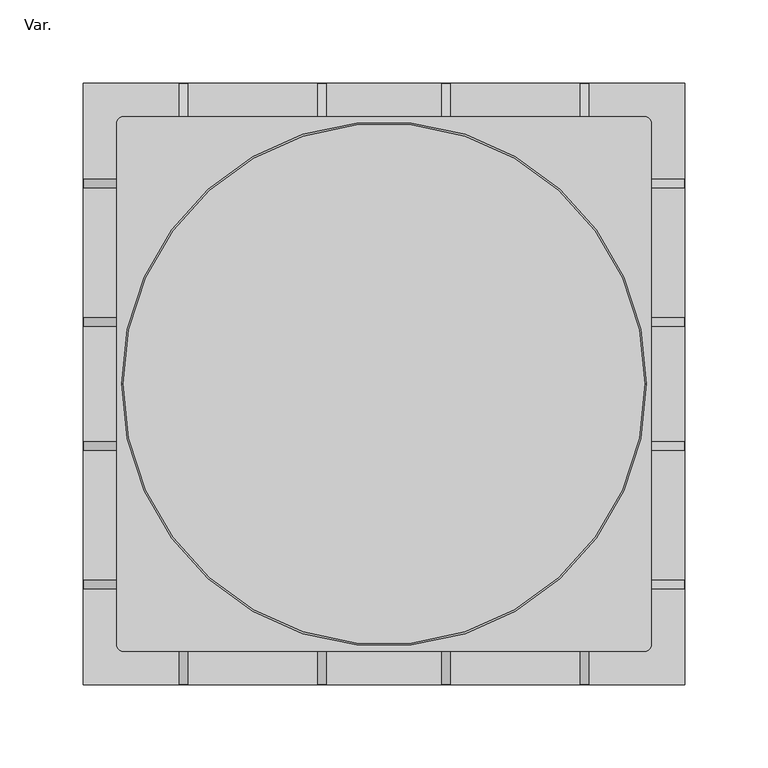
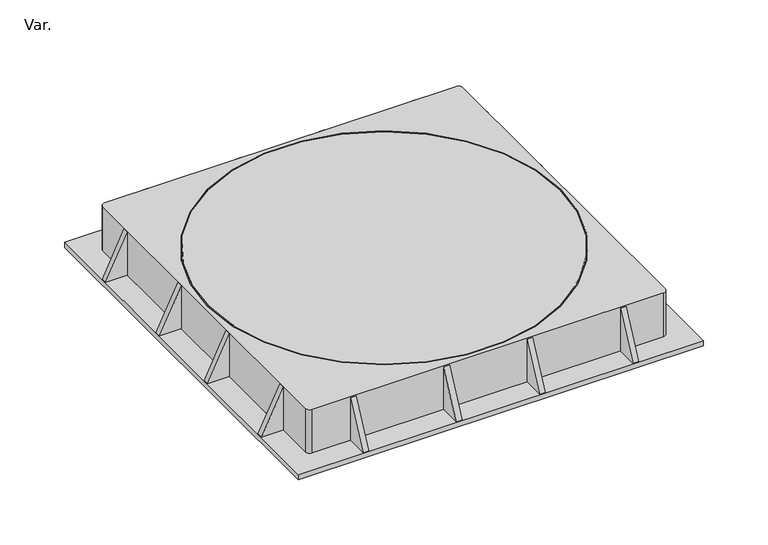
"""IFC4 building model written with IfcOpenShell, lengths in millimetres: pipe fitting geometry, AmancoWavin_ConexõesdeTubos_EsgotoZNãoUsarTampaCaixaGord-Insp : Var.."""

from ifc_helpers import new_model, si_unit, frame, origin, place, context, project, spatial, polyline, circle_curve, outline, extrude, source, transform, mapped, element, save
from ifc_brep_helpers import plane_surface, cylinder_surface, revolved_surface, advanced_brep


def var_2c33ede7(model_context):
    return source(origin(), model_context, "Body", "SolidModel", [
        advanced_brep(
        [(180.5, 180.5, 5.0), (-180.5, 180.5, 5.0), (-180.5, -180.5, 5.0), (180.5, -180.5, 5.0), (-156.5, 160.5, 5.0), (156.5, 160.5, 5.0), (160.5, 156.5, 5.0), (160.5, -156.5, 5.0), (156.5, -160.5, 5.0), (-156.5, -160.5, 5.0), (-160.5, -156.5, 5.0), (-160.5, 156.5, 5.0), (180.5, 180.5, 0.0), (180.5, -180.5, 0.0), (-180.5, -180.5, 0.0), (-180.5, 180.5, 0.0), (157.5, 0.0, 0.0), (-157.5, 0.0, 0.0), (156.5, 160.5, 46.2), (-156.5, 160.5, 46.2), (-160.5, 156.5, 46.2), (-160.5, -156.5, 46.2), (-156.5, -160.5, 46.2), (156.5, -160.5, 46.2), (160.5, -156.5, 46.2), (160.5, 156.5, 46.2), (-157.5, 0.0, 46.2), (157.5, 0.0, 46.2), (156.5, 0.0, 46.2), (-156.5, 0.0, 46.2), (157.5, 0.0, 30.2), (0.0, 0.0, 30.2), (-157.5, 0.0, 30.2), (156.5, 0.0, 45.2), (157.5, 0.0, 45.2), (-157.5, 0.0, 45.2), (-156.5, 0.0, 45.2)],
        [
            (0, 1),
            (1, 2),
            (2, 3),
            (3, 0),
            (4, 5),
            (5, 6, circle_curve(frame((156.5, 156.5, 5.0), z_axis=(0.0, 0.0, -1.0), x_axis=(1.0, 0.0, 0.0)), 4.0)),
            (6, 7),
            (7, 8, circle_curve(frame((156.5, -156.5, 5.0), z_axis=(0.0, 0.0, -1.0), x_axis=(1.0, 0.0, 0.0)), 4.0)),
            (8, 9),
            (9, 10, circle_curve(frame((-156.5, -156.5, 5.0), z_axis=(0.0, 0.0, -1.0), x_axis=(1.0, 0.0, 0.0)), 4.0)),
            (10, 11),
            (11, 4, circle_curve(frame((-156.5, 156.5, 5.0), z_axis=(0.0, 0.0, -1.0), x_axis=(1.0, 0.0, 0.0)), 4.0)),
            (12, 13),
            (13, 14),
            (14, 15),
            (15, 12),
            (16, 17, circle_curve(frame((0.0, 0.0, 0.0), z_axis=(0.0, 0.0, 1.0), x_axis=(-1.0, 0.0, 0.0)), 157.5)),
            (17, 16, circle_curve(frame((0.0, 0.0, 0.0), z_axis=(0.0, 0.0, 1.0), x_axis=(-1.0, 0.0, 0.0)), 157.5)),
            (0, 12),
            (15, 1),
            (14, 2),
            (13, 3),
            (18, 19),
            (19, 20, circle_curve(frame((-156.5, 156.5, 46.2), z_axis=(0.0, 0.0, 1.0), x_axis=(1.0, 0.0, 0.0)), 4.0)),
            (20, 21),
            (21, 22, circle_curve(frame((-156.5, -156.5, 46.2), z_axis=(0.0, 0.0, 1.0), x_axis=(1.0, 0.0, 0.0)), 4.0)),
            (22, 23),
            (23, 24, circle_curve(frame((156.5, -156.5, 46.2), z_axis=(0.0, 0.0, 1.0), x_axis=(1.0, 0.0, 0.0)), 4.0)),
            (24, 25),
            (25, 18, circle_curve(frame((156.5, 156.5, 46.2), z_axis=(0.0, 0.0, 1.0), x_axis=(1.0, 0.0, 0.0)), 4.0)),
            (26, 27, circle_curve(frame((0.0, 0.0, 46.2), z_axis=(0.0, 0.0, -1.0), x_axis=(-1.0, 0.0, 0.0)), 157.5)),
            (27, 26, circle_curve(frame((0.0, 0.0, 46.2), z_axis=(0.0, 0.0, -1.0), x_axis=(-1.0, 0.0, 0.0)), 157.5)),
            (28, 29, circle_curve(frame((0.0, 0.0, 46.2), z_axis=(0.0, 0.0, 1.0), x_axis=(-1.0, 0.0, 0.0)), 156.5)),
            (29, 28, circle_curve(frame((0.0, 0.0, 46.2), z_axis=(0.0, 0.0, 1.0), x_axis=(-1.0, 0.0, 0.0)), 156.5)),
            (18, 5),
            (4, 19),
            (20, 11),
            (10, 21),
            (22, 9),
            (8, 23),
            (24, 7),
            (6, 25),
            (30, 31),
            (31, 32),
            (32, 30, circle_curve(frame((0.0, 0.0, 30.2), z_axis=(0.0, 0.0, -1.0), x_axis=(-1.0, 0.0, 0.0)), 157.5)),
            (30, 32, circle_curve(frame((0.0, 0.0, 30.2), z_axis=(0.0, 0.0, -1.0), x_axis=(-1.0, 0.0, 0.0)), 157.5)),
            (32, 17),
            (16, 30),
            (33, 34),
            (34, 35, circle_curve(frame((0.0, 0.0, 45.2), z_axis=(0.0, 0.0, 1.0), x_axis=(-1.0, 0.0, 0.0)), 157.5)),
            (35, 36),
            (36, 33, circle_curve(frame((0.0, 0.0, 45.2), z_axis=(0.0, 0.0, -1.0), x_axis=(-1.0, 0.0, 0.0)), 156.5)),
            (33, 36, circle_curve(frame((0.0, 0.0, 45.2), z_axis=(0.0, 0.0, -1.0), x_axis=(-1.0, 0.0, 0.0)), 156.5)),
            (35, 34, circle_curve(frame((0.0, 0.0, 45.2), z_axis=(0.0, 0.0, 1.0), x_axis=(-1.0, 0.0, 0.0)), 157.5)),
            (36, 29),
            (28, 33),
            (34, 27),
            (26, 35),
        ],
        [
            plane_surface(frame((-180.5, 180.5, 5.0), z_axis=(0.0, 0.0, 1.0), x_axis=(-1.0, 0.0, 0.0))),
            plane_surface(frame((-180.5, 180.5, 0.0), z_axis=(0.0, 0.0, -1.0), x_axis=(1.0, 0.0, 0.0))),
            plane_surface(frame((180.5, 180.5, 5.0), z_axis=(0.0, 1.0, 0.0), x_axis=(0.0, 0.0, -1.0))),
            plane_surface(frame((-180.5, 180.5, 5.0), z_axis=(-1.0, 0.0, 0.0), x_axis=(0.0, 0.0, -1.0))),
            plane_surface(frame((-180.5, -180.5, 5.0), z_axis=(0.0, -1.0, 0.0), x_axis=(0.0, 0.0, -1.0))),
            plane_surface(frame((180.5, -180.5, 5.0), z_axis=(1.0, 0.0, 0.0), x_axis=(0.0, 0.0, -1.0))),
            plane_surface(frame((-156.5, 160.5, 46.2), z_axis=(0.0, 0.0, 1.0), x_axis=(-1.0, 0.0, 0.0))),
            plane_surface(frame((156.5, 160.5, 46.2), z_axis=(0.0, 1.0, 0.0), x_axis=(0.0, 0.0, -1.0))),
            plane_surface(frame((-160.5, 156.5, 46.2), z_axis=(-1.0, 0.0, 0.0), x_axis=(0.0, 0.0, -1.0))),
            plane_surface(frame((-156.5, -160.5, 46.2), z_axis=(0.0, -1.0, 0.0), x_axis=(0.0, 0.0, -1.0))),
            plane_surface(frame((160.5, -156.5, 46.2), z_axis=(1.0, 0.0, 0.0), x_axis=(0.0, 0.0, -1.0))),
            cylinder_surface(frame((-156.5, 156.5, 5.0), z_axis=(0.0, 0.0, 1.0), x_axis=(1.0, 0.0, 0.0)), 4.0),
            cylinder_surface(frame((-156.5, -156.5, 5.0), z_axis=(0.0, 0.0, 1.0), x_axis=(1.0, 0.0, 0.0)), 4.0),
            cylinder_surface(frame((156.5, -156.5, 5.0), z_axis=(0.0, 0.0, 1.0), x_axis=(1.0, 0.0, 0.0)), 4.0),
            cylinder_surface(frame((156.5, 156.5, 5.0), z_axis=(0.0, 0.0, 1.0), x_axis=(1.0, 0.0, 0.0)), 4.0),
            plane_surface(frame((0.0, 0.0, 30.2), z_axis=(0.0, 0.0, -1.0), x_axis=(-1.0, 0.0, 0.0))),
            revolved_surface(polyline([(-157.5, 0.0, 0.0), (-157.5, 0.0, 30.199999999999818)]), (0.0, 0.0, 2214.3150031), (0.0, 0.0, -1.0)),
            plane_surface(frame((0.0, 0.0, 45.2), z_axis=(0.0, 0.0, 1.0), x_axis=(-1.0, 0.0, 0.0))),
            cylinder_surface(frame((0.0, 0.0, 2214.3150031), z_axis=(0.0, 0.0, -1.0), x_axis=(-1.0, 0.0, 0.0)), 156.5),
            revolved_surface(polyline([(-157.5, 0.0, 45.19999999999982), (-157.5, 0.0, 46.19999999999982)]), (0.0, 0.0, 2214.3150031), (0.0, 0.0, -1.0)),
        ],
        [
            (0, [[1, 2, 3, 4], [5, 6, 7, 8, 9, 10, 11, 12]]),
            (1, [[13, 14, 15, 16], [17, 18]]),
            (2, [[-1, 19, -16, 20]]),
            (3, [[-2, -20, -15, 21]]),
            (4, [[-3, -21, -14, 22]]),
            (5, [[-4, -22, -13, -19]]),
            (6, [[23, 24, 25, 26, 27, 28, 29, 30], [31, 32]]),
            (6, [[33, 34]]),
            (7, [[-23, 35, -5, 36]]),
            (8, [[-25, 37, -11, 38]]),
            (9, [[-27, 39, -9, 40]]),
            (10, [[-29, 41, -7, 42]]),
            (11, [[-24, -36, -12, -37]]),
            (12, [[-26, -38, -10, -39]]),
            (13, [[-28, -40, -8, -41]]),
            (14, [[-30, -42, -6, -35]]),
            (15, [[43, 44, 45]]),
            (15, [[-43, 46, -44]]),
            (16, [[-45, 47, -17, 48]]),
            (16, [[-46, -48, -18, -47]]),
            (17, [[49, 50, 51, 52]]),
            (17, [[-49, 53, -51, 54]]),
            (18, [[-52, 55, -33, 56]]),
            (18, [[-53, -56, -34, -55]]),
            (19, [[-50, 57, -31, 58]]),
            (19, [[-54, -58, -32, -57]]),
        ],
    ),
        extrude(outline(polyline([(5.0, -180.5), (5.0, -160.5), (46.2, -160.5), (5.0, -180.5)])), frame((0.0, 34.625, 0.0), z_axis=(0.0, 1.0, 0.0), x_axis=(0.0, 0.0, 1.0)), (0.0, 0.0, 1.0), 5.0),
        extrude(outline(polyline([(5.0, -180.5), (5.0, -160.5), (46.2, -160.5), (5.0, -180.5)])), frame((0.0, 117.87, 0.0), z_axis=(0.0, 1.0, 0.0), x_axis=(0.0, 0.0, 1.0)), (0.0, 0.0, 1.0), 5.0),
        extrude(outline(polyline([(5.0, -180.5), (5.0, -160.5), (46.2, -160.5), (5.0, -180.5)])), frame((0.0, -39.625, 0.0), z_axis=(0.0, 1.0, 0.0), x_axis=(0.0, 0.0, 1.0)), (0.0, 0.0, 1.0), 5.0),
        extrude(outline(polyline([(5.0, -180.5), (5.0, -160.5), (46.2, -160.5), (5.0, -180.5)])), frame((0.0, -122.87, 0.0), z_axis=(0.0, 1.0, 0.0), x_axis=(0.0, 0.0, 1.0)), (0.0, 0.0, 1.0), 5.0),
        extrude(outline(polyline([(5.0, 180.5), (46.2, 160.5), (5.0, 160.5), (5.0, 180.5)])), frame((0.0, 34.625, 0.0), z_axis=(0.0, 1.0, 0.0), x_axis=(0.0, 0.0, 1.0)), (0.0, 0.0, 1.0), 5.0),
        extrude(outline(polyline([(5.0, 180.5), (46.2, 160.5), (5.0, 160.5), (5.0, 180.5)])), frame((0.0, 117.87, 0.0), z_axis=(0.0, 1.0, 0.0), x_axis=(0.0, 0.0, 1.0)), (0.0, 0.0, 1.0), 5.0),
        extrude(outline(polyline([(5.0, 180.5), (46.2, 160.5), (5.0, 160.5), (5.0, 180.5)])), frame((0.0, -39.625, 0.0), z_axis=(0.0, 1.0, 0.0), x_axis=(0.0, 0.0, 1.0)), (0.0, 0.0, 1.0), 5.0),
        extrude(outline(polyline([(5.0, 180.5), (46.2, 160.5), (5.0, 160.5), (5.0, 180.5)])), frame((0.0, -122.87, 0.0), z_axis=(0.0, 1.0, 0.0), x_axis=(0.0, 0.0, 1.0)), (0.0, 0.0, 1.0), 5.0),
        extrude(outline(polyline([(-180.5, 5.0), (-160.5, 46.2), (-160.5, 5.0), (-180.5, 5.0)])), frame((-39.625, 0.0, 0.0), z_axis=(1.0, 0.0, 0.0), x_axis=(0.0, 1.0, 0.0)), (0.0, 0.0, 1.0), 5.0),
        extrude(outline(polyline([(-180.5, 5.0), (-160.5, 46.2), (-160.5, 5.0), (-180.5, 5.0)])), frame((-122.87, 0.0, 0.0), z_axis=(1.0, 0.0, 0.0), x_axis=(0.0, 1.0, 0.0)), (0.0, 0.0, 1.0), 5.0),
        extrude(outline(polyline([(-180.5, 5.0), (-160.5, 46.2), (-160.5, 5.0), (-180.5, 5.0)])), frame((34.625, 0.0, 0.0), z_axis=(1.0, 0.0, 0.0), x_axis=(0.0, 1.0, 0.0)), (0.0, 0.0, 1.0), 5.0),
        extrude(outline(polyline([(-180.5, 5.0), (-160.5, 46.2), (-160.5, 5.0), (-180.5, 5.0)])), frame((117.87, 0.0, 0.0), z_axis=(1.0, 0.0, 0.0), x_axis=(0.0, 1.0, 0.0)), (0.0, 0.0, 1.0), 5.0),
        extrude(outline(polyline([(180.5, 5.0), (160.5, 5.0), (160.5, 46.2), (180.5, 5.0)])), frame((-39.625, 0.0, 0.0), z_axis=(1.0, 0.0, 0.0), x_axis=(0.0, 1.0, 0.0)), (0.0, 0.0, 1.0), 5.0),
        extrude(outline(polyline([(180.5, 5.0), (160.5, 5.0), (160.5, 46.2), (180.5, 5.0)])), frame((-122.87, 0.0, 0.0), z_axis=(1.0, 0.0, 0.0), x_axis=(0.0, 1.0, 0.0)), (0.0, 0.0, 1.0), 5.0),
        extrude(outline(polyline([(180.5, 5.0), (160.5, 5.0), (160.5, 46.2), (180.5, 5.0)])), frame((34.625, 0.0, 0.0), z_axis=(1.0, 0.0, 0.0), x_axis=(0.0, 1.0, 0.0)), (0.0, 0.0, 1.0), 5.0),
        extrude(outline(polyline([(180.5, 5.0), (160.5, 5.0), (160.5, 46.2), (180.5, 5.0)])), frame((117.87, 0.0, 0.0), z_axis=(1.0, 0.0, 0.0), x_axis=(0.0, 1.0, 0.0)), (0.0, 0.0, 1.0), 5.0),
        extrude(outline(polyline([(5.0, 180.5), (46.2, 160.5), (5.0, 160.5), (5.0, 180.5)])), frame((0.0, -39.625, 0.0), z_axis=(0.0, 1.0, 0.0), x_axis=(0.0, 0.0, 1.0)), (0.0, 0.0, 1.0), 5.0),
        extrude(outline(polyline([(5.0, 180.5), (46.2, 160.5), (5.0, 160.5), (5.0, 180.5)])), frame((0.0, -122.87, 0.0), z_axis=(0.0, 1.0, 0.0), x_axis=(0.0, 0.0, 1.0)), (0.0, 0.0, 1.0), 5.0),
        extrude(outline(polyline([(5.0, 180.5), (46.2, 160.5), (5.0, 160.5), (5.0, 180.5)])), frame((0.0, 34.625, 0.0), z_axis=(0.0, 1.0, 0.0), x_axis=(0.0, 0.0, 1.0)), (0.0, 0.0, 1.0), 5.0),
        extrude(outline(polyline([(5.0, 180.5), (46.2, 160.5), (5.0, 160.5), (5.0, 180.5)])), frame((0.0, 117.87, 0.0), z_axis=(0.0, 1.0, 0.0), x_axis=(0.0, 0.0, 1.0)), (0.0, 0.0, 1.0), 5.0),
        extrude(outline(polyline([(5.0, -180.5), (5.0, -160.5), (46.2, -160.5), (5.0, -180.5)])), frame((0.0, -39.625, 0.0), z_axis=(0.0, 1.0, 0.0), x_axis=(0.0, 0.0, 1.0)), (0.0, 0.0, 1.0), 5.0),
        extrude(outline(polyline([(5.0, -180.5), (5.0, -160.5), (46.2, -160.5), (5.0, -180.5)])), frame((0.0, -122.87, 0.0), z_axis=(0.0, 1.0, 0.0), x_axis=(0.0, 0.0, 1.0)), (0.0, 0.0, 1.0), 5.0),
        extrude(outline(polyline([(5.0, -180.5), (5.0, -160.5), (46.2, -160.5), (5.0, -180.5)])), frame((0.0, 34.625, 0.0), z_axis=(0.0, 1.0, 0.0), x_axis=(0.0, 0.0, 1.0)), (0.0, 0.0, 1.0), 5.0),
        extrude(outline(polyline([(5.0, -180.5), (5.0, -160.5), (46.2, -160.5), (5.0, -180.5)])), frame((0.0, 117.87, 0.0), z_axis=(0.0, 1.0, 0.0), x_axis=(0.0, 0.0, 1.0)), (0.0, 0.0, 1.0), 5.0),
    ])


if __name__ == "__main__":
    model = new_model("IFC4")
    model_context = context("Model", 3, world=origin())
    ifc_project = project(units=[si_unit("LENGTHUNIT", "METRE", prefix="MILLI")], contexts=[model_context])
    site = spatial("IfcSite", under=ifc_project)
    building = spatial("IfcBuilding", under=site)
    placement = place(None, origin())
    var_shape = var_2c33ede7(model_context)
    element("IfcPipeFitting", 1, ObjectType="AmancoWavin_ConexõesdeTubos_EsgotoZNãoUsarTampaCaixaGord-Insp : Var.", at=placement, inside=building, context=model_context, shape_type="MappedRepresentation", body=[
        mapped(var_shape, transform((0.0, 0.0, 0.0), x_axis=(1.0, 0.0, 0.0), y_axis=(0.0, 1.0, 0.0), z_axis=(0.0, 0.0, 1.0))),
    ])
    save(model, "model.ifc")
